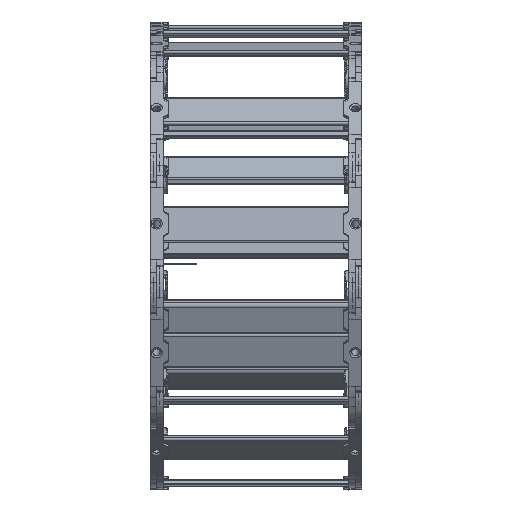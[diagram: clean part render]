
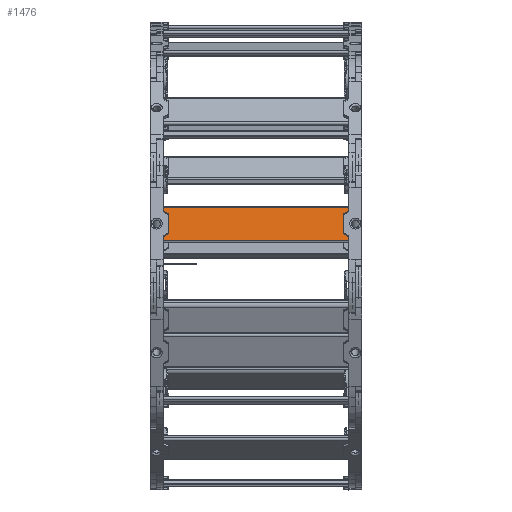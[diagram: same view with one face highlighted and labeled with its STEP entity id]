
A CAD part, front view. The second image highlights one B-rep face of the part: STEP entity #1476.
In plain terms, the highlighted planar face has unit normal (0, -0.984, 0.178) as drawn and (0, 0, -1) by its records, which use the part's own axes.
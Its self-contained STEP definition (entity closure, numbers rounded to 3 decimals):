
#793=CARTESIAN_POINT('',(214.,13.387,3.5));
#794=VERTEX_POINT('',#793);
#802=CARTESIAN_POINT('',(214.,17.899,3.5));
#803=VERTEX_POINT('',#802);
#804=CARTESIAN_POINT('',(214.,13.387,3.5));
#805=DIRECTION('',(0.,1.0,0.));
#806=VECTOR('',#805,4.512);
#807=LINE('',#804,#806);
#808=EDGE_CURVE('',#794,#803,#807,.T.);
#937=CARTESIAN_POINT('',(214.,-18.019,3.5));
#938=VERTEX_POINT('',#937);
#946=CARTESIAN_POINT('',(214.,-13.387,3.5));
#947=VERTEX_POINT('',#946);
#948=CARTESIAN_POINT('',(214.,-18.019,3.5));
#949=DIRECTION('',(0.,1.0,0.));
#950=VECTOR('',#949,4.632);
#951=LINE('',#948,#950);
#952=EDGE_CURVE('',#938,#947,#951,.T.);
#1342=CARTESIAN_POINT('',(14.,-18.019,3.5));
#1343=VERTEX_POINT('',#1342);
#1351=CARTESIAN_POINT('',(214.,-18.019,3.5));
#1352=DIRECTION('',(-1.0,0.0,0.0));
#1353=VECTOR('',#1352,200.0);
#1354=LINE('',#1351,#1353);
#1355=EDGE_CURVE('',#938,#1343,#1354,.T.);
#1362=CARTESIAN_POINT('',(214.,2.941,3.5));
#1363=DIRECTION('',(0.,0.,-1.0));
#1364=DIRECTION('',(1.0,0.0,0.0));
#1365=AXIS2_PLACEMENT_3D('',#1362,#1363,#1364);
#1366=PLANE('',#1365);
#1367=CARTESIAN_POINT('',(209.25,-10.644,3.5));
#1368=VERTEX_POINT('',#1367);
#1369=CARTESIAN_POINT('',(214.,-13.387,3.5));
#1370=DIRECTION('',(-0.866,0.5,0.));
#1371=VECTOR('',#1370,5.485);
#1372=LINE('',#1369,#1371);
#1373=EDGE_CURVE('',#947,#1368,#1372,.T.);
#1374=ORIENTED_EDGE('',*,*,#1373,.F.);
#1375=ORIENTED_EDGE('',*,*,#952,.F.);
#1376=ORIENTED_EDGE('',*,*,#1355,.T.);
#1377=CARTESIAN_POINT('',(14.,-13.387,3.5));
#1378=VERTEX_POINT('',#1377);
#1379=CARTESIAN_POINT('',(14.,-13.387,3.5));
#1380=DIRECTION('',(0.,-1.0,0.));
#1381=VECTOR('',#1380,4.632);
#1382=LINE('',#1379,#1381);
#1383=EDGE_CURVE('',#1378,#1343,#1382,.T.);
#1384=ORIENTED_EDGE('',*,*,#1383,.F.);
#1385=CARTESIAN_POINT('',(18.75,-10.644,3.5));
#1386=VERTEX_POINT('',#1385);
#1387=CARTESIAN_POINT('',(18.75,-10.644,3.5));
#1388=DIRECTION('',(-0.866,-0.5,0.0));
#1389=VECTOR('',#1388,5.485);
#1390=LINE('',#1387,#1389);
#1391=EDGE_CURVE('',#1386,#1378,#1390,.T.);
#1392=ORIENTED_EDGE('',*,*,#1391,.F.);
#1393=CARTESIAN_POINT('',(19.5,-9.345,3.5));
#1394=VERTEX_POINT('',#1393);
#1395=CARTESIAN_POINT('',(18.0,-9.345,3.5));
#1396=DIRECTION('',(0.,0.,-1.));
#1397=DIRECTION('',(0.866,-0.5,0.));
#1398=AXIS2_PLACEMENT_3D('',#1395,#1396,#1397);
#1399=CIRCLE('',#1398,1.5);
#1400=EDGE_CURVE('',#1394,#1386,#1399,.T.);
#1401=ORIENTED_EDGE('',*,*,#1400,.F.);
#1402=CARTESIAN_POINT('',(19.5,9.345,3.5));
#1403=VERTEX_POINT('',#1402);
#1404=CARTESIAN_POINT('',(19.5,9.345,3.5));
#1405=DIRECTION('',(0.0,-1.0,0.0));
#1406=VECTOR('',#1405,18.691);
#1407=LINE('',#1404,#1406);
#1408=EDGE_CURVE('',#1403,#1394,#1407,.T.);
#1409=ORIENTED_EDGE('',*,*,#1408,.F.);
#1410=CARTESIAN_POINT('',(18.75,10.644,3.5));
#1411=VERTEX_POINT('',#1410);
#1412=CARTESIAN_POINT('',(18.0,9.345,3.5));
#1413=DIRECTION('',(0.,0.,-1.));
#1414=DIRECTION('',(0.866,0.5,0.));
#1415=AXIS2_PLACEMENT_3D('',#1412,#1413,#1414);
#1416=CIRCLE('',#1415,1.5);
#1417=EDGE_CURVE('',#1411,#1403,#1416,.T.);
#1418=ORIENTED_EDGE('',*,*,#1417,.F.);
#1419=CARTESIAN_POINT('',(14.,13.387,3.5));
#1420=VERTEX_POINT('',#1419);
#1421=CARTESIAN_POINT('',(14.,13.387,3.5));
#1422=DIRECTION('',(0.866,-0.5,0.));
#1423=VECTOR('',#1422,5.485);
#1424=LINE('',#1421,#1423);
#1425=EDGE_CURVE('',#1420,#1411,#1424,.T.);
#1426=ORIENTED_EDGE('',*,*,#1425,.F.);
#1427=CARTESIAN_POINT('',(14.,17.899,3.5));
#1428=VERTEX_POINT('',#1427);
#1429=CARTESIAN_POINT('',(14.,17.899,3.5));
#1430=DIRECTION('',(0.,-1.0,0.));
#1431=VECTOR('',#1430,4.512);
#1432=LINE('',#1429,#1431);
#1433=EDGE_CURVE('',#1428,#1420,#1432,.T.);
#1434=ORIENTED_EDGE('',*,*,#1433,.F.);
#1435=CARTESIAN_POINT('',(214.,17.899,3.5));
#1436=DIRECTION('',(-1.0,0.0,0.0));
#1437=VECTOR('',#1436,200.0);
#1438=LINE('',#1435,#1437);
#1439=EDGE_CURVE('',#803,#1428,#1438,.T.);
#1440=ORIENTED_EDGE('',*,*,#1439,.F.);
#1441=ORIENTED_EDGE('',*,*,#808,.F.);
#1442=CARTESIAN_POINT('',(209.25,10.644,3.5));
#1443=VERTEX_POINT('',#1442);
#1444=CARTESIAN_POINT('',(209.25,10.644,3.5));
#1445=DIRECTION('',(0.866,0.5,0.));
#1446=VECTOR('',#1445,5.485);
#1447=LINE('',#1444,#1446);
#1448=EDGE_CURVE('',#1443,#794,#1447,.T.);
#1449=ORIENTED_EDGE('',*,*,#1448,.F.);
#1450=CARTESIAN_POINT('',(208.5,9.345,3.5));
#1451=VERTEX_POINT('',#1450);
#1452=CARTESIAN_POINT('',(210.,9.345,3.5));
#1453=DIRECTION('',(0.,0.,-1.));
#1454=DIRECTION('',(-0.866,0.5,0.));
#1455=AXIS2_PLACEMENT_3D('',#1452,#1453,#1454);
#1456=CIRCLE('',#1455,1.5);
#1457=EDGE_CURVE('',#1451,#1443,#1456,.T.);
#1458=ORIENTED_EDGE('',*,*,#1457,.F.);
#1459=CARTESIAN_POINT('',(208.5,-9.345,3.5));
#1460=VERTEX_POINT('',#1459);
#1461=CARTESIAN_POINT('',(208.5,-9.345,3.5));
#1462=DIRECTION('',(0.0,1.0,0.));
#1463=VECTOR('',#1462,18.691);
#1464=LINE('',#1461,#1463);
#1465=EDGE_CURVE('',#1460,#1451,#1464,.T.);
#1466=ORIENTED_EDGE('',*,*,#1465,.F.);
#1467=CARTESIAN_POINT('',(210.,-9.345,3.5));
#1468=DIRECTION('',(0.,0.,-1.));
#1469=DIRECTION('',(-0.866,-0.5,0.));
#1470=AXIS2_PLACEMENT_3D('',#1467,#1468,#1469);
#1471=CIRCLE('',#1470,1.5);
#1472=EDGE_CURVE('',#1368,#1460,#1471,.T.);
#1473=ORIENTED_EDGE('',*,*,#1472,.F.);
#1474=EDGE_LOOP('',(#1374,#1375,#1376,#1384,#1392,#1401,#1409,#1418,#1426,#1434,#1440,#1441,#1449,#1458,#1466,#1473));
#1475=FACE_OUTER_BOUND('',#1474,.T.);
#1476=ADVANCED_FACE('',(#1475),#1366,.T.);
